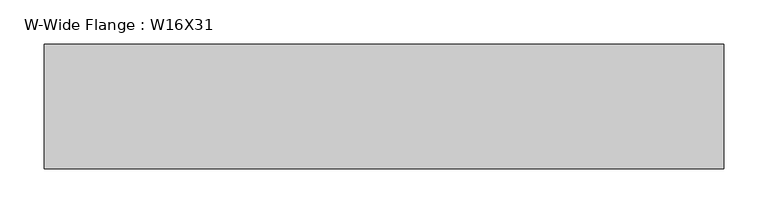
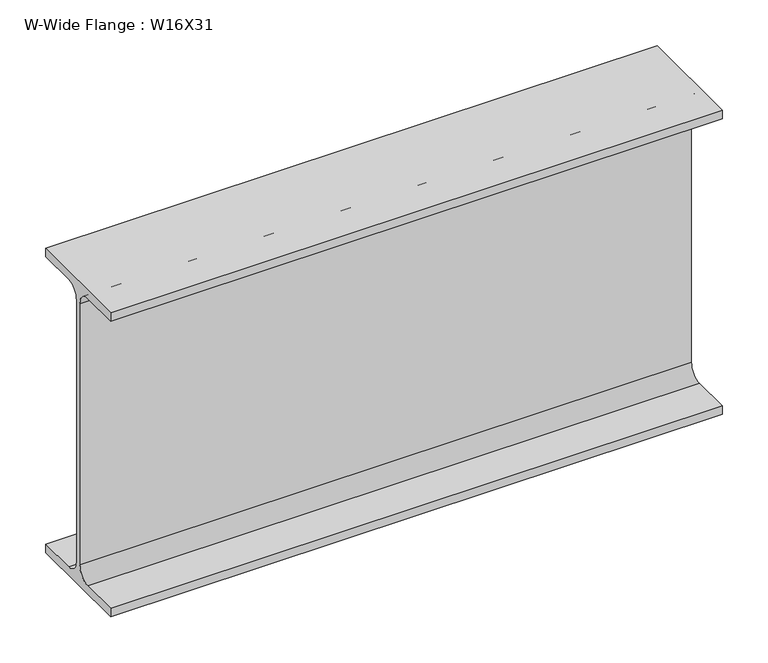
"""IFC4 building model written with IfcOpenShell, lengths in millimetres: beam geometry, W-Wide Flange : W16X31."""

from ifc_helpers import new_model, si_unit, point, frame, frame_2d, origin, place, context, project, spatial, polyline, circle_curve, trimmed, segment, composite_curve, outline, extrude, source, transform, mapped, element, save


def w_wide_flange_w16x31_03689333(model_context):
    return source(origin(), model_context, "Body", "SweptSolid", [
        extrude(outline(composite_curve([segment(polyline([(70.231, -190.754), (70.231, -201.93), (-70.231, -201.93), (-70.231, -190.754), (-20.8915, -190.754)]), True, "CONTINUOUS"), segment(trimmed(circle_curve(frame_2d((-20.8915, -173.355)), 17.399), [point((-20.8915, -190.754))], [point((-3.4925, -173.355))], True, "CARTESIAN"), True, "CONTINUOUS"), segment(polyline([(-3.4925, -173.355), (-3.4925, 173.355)]), True, "CONTINUOUS"), segment(trimmed(circle_curve(frame_2d((-20.8915, 173.355)), 17.399), [point((-3.4925, 173.355))], [point((-20.8915, 190.754))], True, "CARTESIAN"), True, "CONTINUOUS"), segment(polyline([(-20.8915, 190.754), (-70.231, 190.754), (-70.231, 201.93), (70.231, 201.93), (70.231, 190.754), (20.8915, 190.754)]), True, "CONTINUOUS"), segment(trimmed(circle_curve(frame_2d((20.8915, 173.355)), 17.399), [point((20.8915, 190.754))], [point((3.4925, 173.355))], True, "CARTESIAN"), True, "CONTINUOUS"), segment(polyline([(3.4925, 173.355), (3.4925, -173.355)]), True, "CONTINUOUS"), segment(trimmed(circle_curve(frame_2d((20.8915, -173.355)), 17.399), [point((3.4925, -173.355))], [point((20.8915, -190.754))], True, "CARTESIAN"), True, "CONTINUOUS"), segment(polyline([(20.8915, -190.754), (70.231, -190.754)]), True, "CONTINUOUS")], self_intersect=False)), frame((-355.5790981, 0.0, 0.0), z_axis=(1.0, 0.0, 0.0), x_axis=(0.0, 1.0, 0.0)), (0.0, 0.0, 1.0), 767.969),
    ])


if __name__ == "__main__":
    model = new_model("IFC4")
    model_context = context("Model", 3, world=origin())
    ifc_project = project(units=[si_unit("LENGTHUNIT", "METRE", prefix="MILLI")], contexts=[model_context])
    site = spatial("IfcSite", under=ifc_project)
    building = spatial("IfcBuilding", under=site)
    placement = place(None, origin())
    w_wide_flange_w16x31_shape = w_wide_flange_w16x31_03689333(model_context)
    element("IfcBeam", 1, ObjectType="W-Wide Flange : W16X31", at=placement, inside=building, context=model_context, shape_type="MappedRepresentation", body=[
        mapped(w_wide_flange_w16x31_shape, transform((0.0, 0.0, 0.0), x_axis=(1.0, 0.0, 0.0), y_axis=(0.0, 1.0, 0.0), z_axis=(0.0, 0.0, 1.0))),
    ])
    save(model, "model.ifc")
